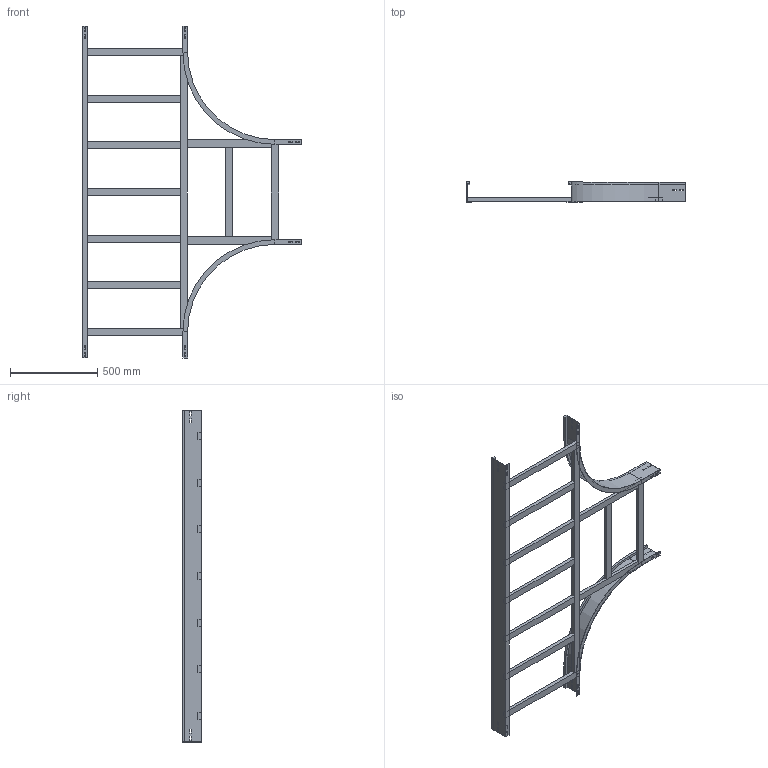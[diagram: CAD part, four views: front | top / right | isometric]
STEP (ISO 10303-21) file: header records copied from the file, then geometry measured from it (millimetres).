
FILE_DESCRIPTION (( 'STEP AP214' ), '1' );
FILE_NAME ('15B5J600.step', '2025-02-21T15:51:01', ( '' ), ( '' ), 'SwSTEP 2.0', 'SolidWorks 2023', '' );
FILE_SCHEMA (( 'AUTOMOTIVE_DESIGN' ));
Length unit declared in the file: millimetre
Products named in the file (8): 15B5J600; TRAVERSINO_COPPIA_600; TRAVERSINO_LONG._R500+600; TRAVERSINO_VERT_R500; LONGH.RETT_H112.5_R500+600; LONGH.INTERNO 90°_H112.5_R500; TRAVERSINO_600; TRAVERSINO_INTERMEDIO_R500+600
Assembly tree (15 placements, depth 2):
  15B5J600
    LONGH.INTERNO 90°_H112.5_R500  x2
    LONGH.RETT_H112.5_R500+600
    TRAVERSINO_600  x3
    TRAVERSINO_LONG._R500+600
    TRAVERSINO_INTERMEDIO_R500+600  x5
    TRAVERSINO_VERT_R500  x2
    TRAVERSINO_COPPIA_600
Bounding box: 1250 x 112.5 x 1900 mm (x, y, z)
Volume: 8061521.3 mm3; surface area: 2208437.8 mm2
Topology: 15 solids, 15 shells, 230 faces, 568 edges, 368 vertices
Faces by surface type: plane 222, cylinder 8
Entity records: 4217 total; most frequent: CARTESIAN_POINT 696, ORIENTED_EDGE 664, DIRECTION 636, EDGE_CURVE 332, VECTOR 324, LINE 324, VERTEX_POINT 216, EDGE_LOOP 162
